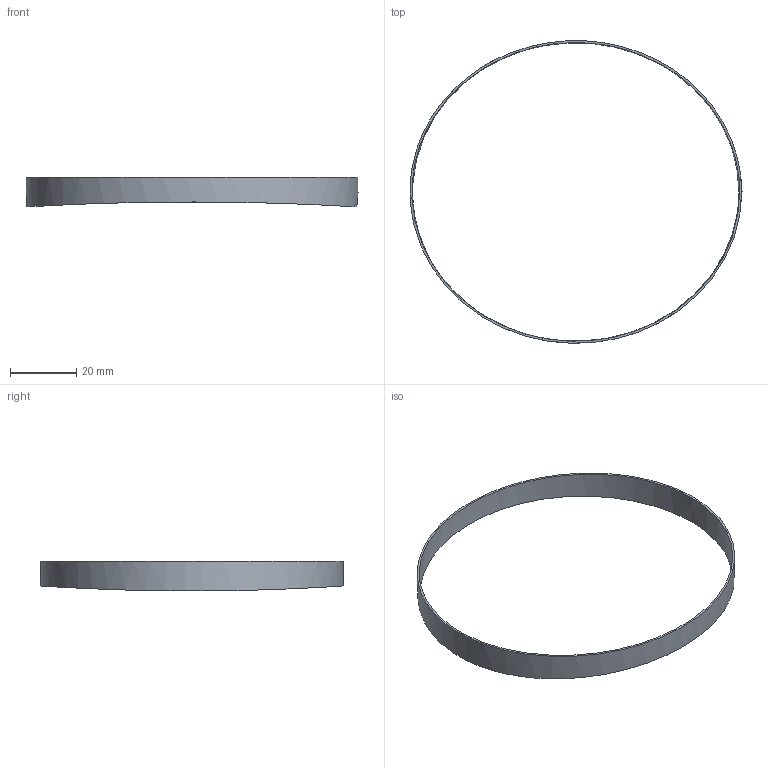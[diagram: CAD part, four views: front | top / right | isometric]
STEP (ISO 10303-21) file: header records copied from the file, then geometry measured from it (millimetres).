
FILE_DESCRIPTION(('FreeCAD Model'),'2;1');
FILE_NAME('Open CASCADE Shape Model','2026-11-20T08:25:34',('FreeCAD'),( 'FreeCAD'),'Open CASCADE STEP processor 7.8','FreeCAD','Unknown');
FILE_SCHEMA(('AUTOMOTIVE_DESIGN { 1 0 10303 214 1 1 1 1 }'));
Length unit declared in the file: millimetre
Products named in the file (1): Open CASCADE STEP translator 7.8 16
Bounding box: 100.01 x 91.11 x 9.03 mm (x, y, z)
Volume: 1493.5 mm3; surface area: 5224.9 mm2
Topology: 1 solids, 1 shells, 4 faces, 7 edges, 4 vertices
Faces by surface type: bspline 3, plane 1
Entity records: 1845 total; most frequent: CARTESIAN_POINT 1781, ORIENTED_EDGE 14, EDGE_CURVE 7, FACE_BOUND 5, EDGE_LOOP 5, DIRECTION 4, ADVANCED_FACE 4, VERTEX_POINT 4
